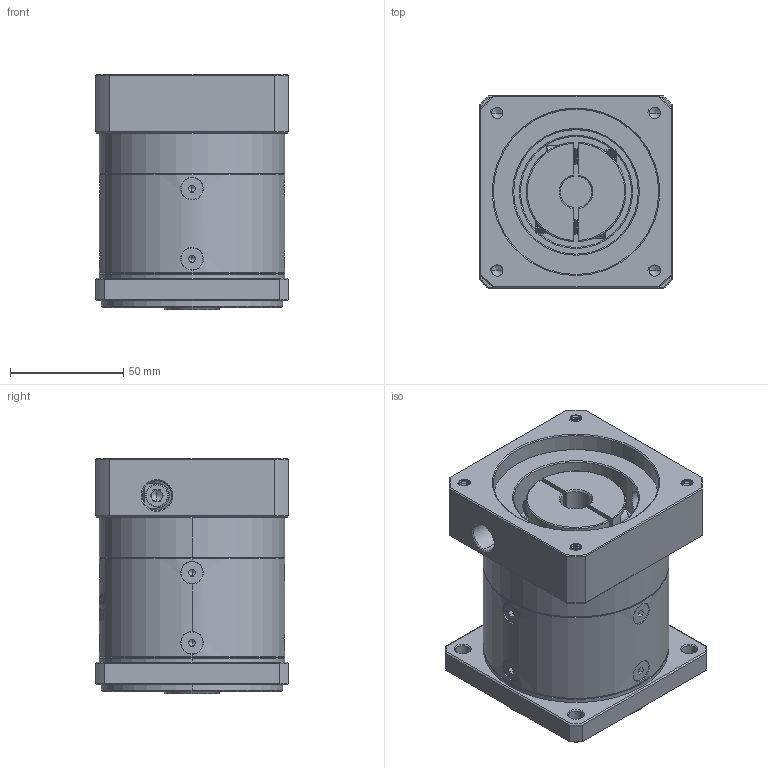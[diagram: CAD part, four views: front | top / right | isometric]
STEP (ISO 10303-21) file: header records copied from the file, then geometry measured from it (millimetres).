
FILE_DESCRIPTION (( 'STEP AP214' ), '1' );
FILE_NAME ('ZF080-K15-L1-P2-14-73-69.6X69.6-M6.step', '2023-08-19T05:34:37', ( '' ), ( '' ), 'SwSTEP 2.0', 'SolidWorks 2016', '' );
FILE_SCHEMA (( 'AUTOMOTIVE_DESIGN' ));
Length unit declared in the file: millimetre
Products named in the file (1): ZF080-K15-L1-P2-14-73-69.6X69.6-M6
Bounding box: 85 x 85 x 104 mm (x, y, z)
Volume: 525878 mm3; surface area: 87705 mm2
Topology: 13 solids, 13 shells, 2208 faces, 5791 edges, 3681 vertices
Faces by surface type: plane 1066, bspline 390, cylinder 384, cone 333, torus 35
Entity records: 117294 total; most frequent: CARTESIAN_POINT 43631, ORIENTED_EDGE 11526, DIRECTION 8528, EDGE_CURVE 5763, VERTEX_POINT 3681, VECTOR 3072, LINE 3072, AXIS2_PLACEMENT_3D 2728
